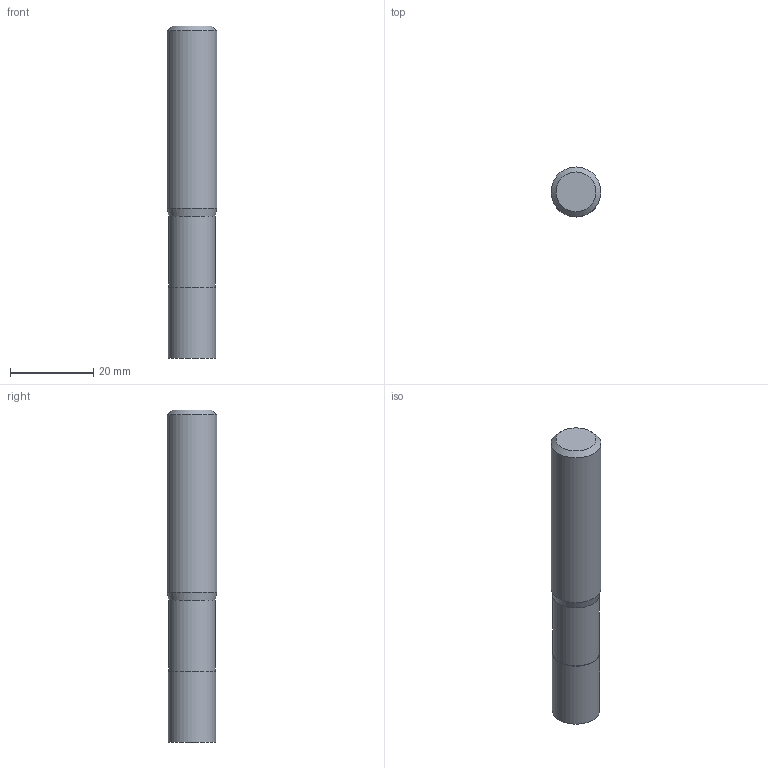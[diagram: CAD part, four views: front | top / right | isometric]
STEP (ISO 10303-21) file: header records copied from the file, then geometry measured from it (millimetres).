
FILE_DESCRIPTION((''),'2;1');
FILE_NAME('C:\Users\nsx150\AppData\Local\Temp\Mastercam 2021\EUJSUNXURU\TEMP.step','2021-04-22T10:30:19',(''),(''),'STEP Write','Mastercam 2021 ... CNC Software, Inc.','');
FILE_SCHEMA(('AUTOMOTIVE_DESIGN'));
Length unit declared in the file: millimetre
Products named in the file (1): None
Bounding box: 12 x 12 x 80 mm (x, y, z)
Volume: 8570.8 mm3; surface area: 3327.3 mm2
Topology: 2 solids, 2 shells, 9 faces, 12 edges, 7 vertices
Faces by surface type: plane 4, cylinder 3, cone 2
Full cylindrical faces by diameter (mm): 11.2 x1, 11.4 x1, 12 x1
Entity records: 211 total; most frequent: DIRECTION 36, CARTESIAN_POINT 25, AXIS2_PLACEMENT_3D 18, ORIENTED_EDGE 14, EDGE_LOOP 14, STYLED_ITEM 12, ADVANCED_FACE 9, FACE_BOUND 8
